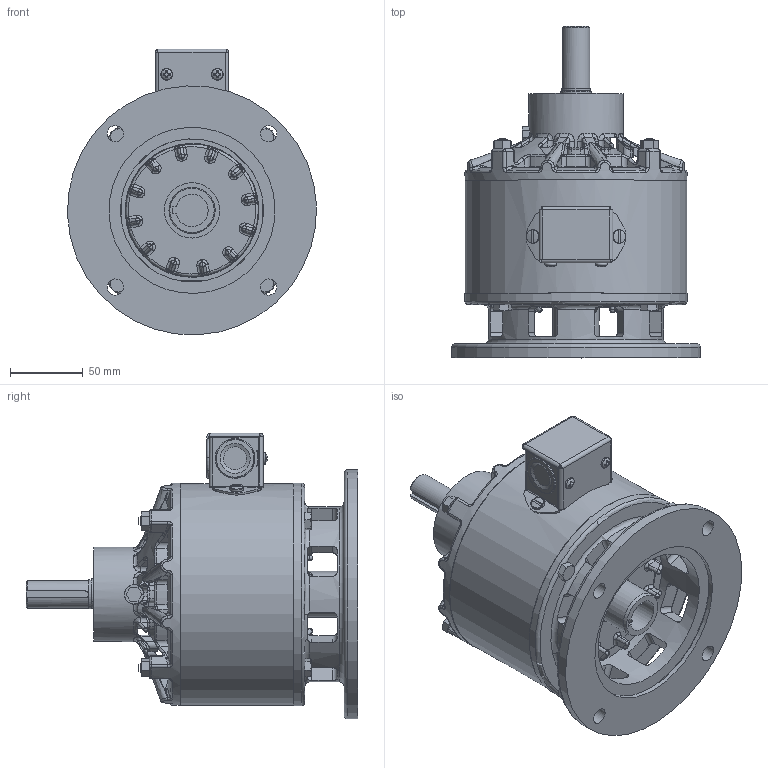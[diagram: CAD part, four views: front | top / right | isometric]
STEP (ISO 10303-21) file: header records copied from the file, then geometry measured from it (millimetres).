
FILE_DESCRIPTION(/* description */ ('STEP AP214'),/* implementation_level */ '2;1');
FILE_NAME(/* name */ '10MC90F20_stp.step',/* time_stamp */ '2026-05-12T15:20:18-05:00',/* author */ (''),/* organization */ (''),/* preprocessor_version */ 'ST-DEVELOPER v20.1',/* originating_system */ 'Autodesk Translation Framework v15.8.0.0',/* authorisation */ '');
FILE_SCHEMA (('AUTOMOTIVE_DESIGN { 1 0 10303 214 3 1 1 }'));
Products named in the file (1): 10MC90F20_asm_stp
Bounding box: 171.29 x 228.3 x 196.59 mm (x, y, z)
Volume: 1500908.8 mm3; surface area: 375572.3 mm2
Topology: 5 solids, 10 shells, 1885 faces, 4653 edges, 2720 vertices
Faces by surface type: bspline 556, cylinder 450, plane 447, torus 205, cone 157, sphere 70
Full cylindrical faces by diameter (mm): 3.306 x2, 3.454 x2, 3.795 x2, 4.039 x4, 4.166 x2, 6.35 x11, 6.747 x4, 9.474 x2, 11.112 x4, 13.208 x1, 13.487 x1, 13.494 x1, 19.05 x1, 19.101 x2, 19.939 x1, 20.008 x5, 22.225 x3, 23.79 x1, 23.8 x1, 29.375 x4, 31.75 x1, 37.625 x4, 38.1 x1, 44.45 x1, 46.998 x2, 47.65 x1, 65.075 x1, 74.701 x1, 77.013 x2, 92.126 x2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
Entity records: 92561 total; most frequent: CARTESIAN_POINT 52057, ORIENTED_EDGE 9162, DIRECTION 7723, EDGE_CURVE 4581, AXIS2_PLACEMENT_3D 3222, VERTEX_POINT 2728, EDGE_LOOP 2019, FACE_OUTER_BOUND 1885
